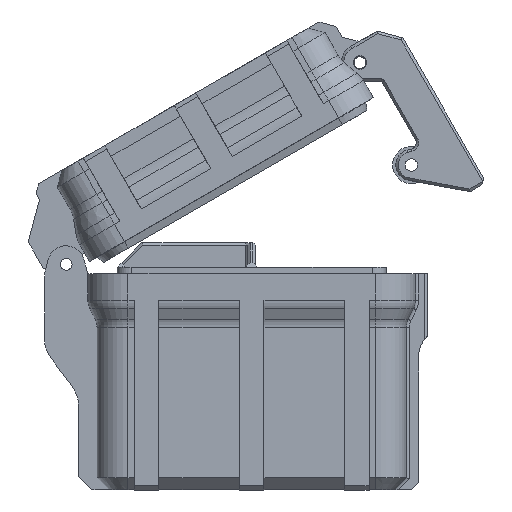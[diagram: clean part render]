
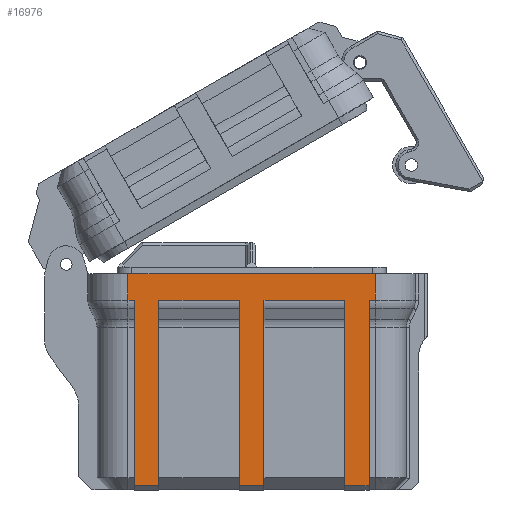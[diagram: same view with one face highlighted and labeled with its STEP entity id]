
A CAD part, left-side view. The second image highlights one B-rep face of the part: STEP entity #16976.
In plain terms, the highlighted planar face has unit normal (-1, 0, 0).
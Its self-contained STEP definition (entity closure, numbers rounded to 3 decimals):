
#2050=FACE_OUTER_BOUND('',#3038,.T.);
#3038=EDGE_LOOP('',(#15054,#15055,#15056,#15057,#15058,#15059,#15060,#15061,
#15062,#15063,#15064,#15065,#15066,#15067,#15068,#15069));
#4217=LINE('',#28101,#5960);
#4335=LINE('',#28431,#6078);
#4340=LINE('',#28441,#6083);
#4346=LINE('',#28455,#6089);
#4349=LINE('',#28464,#6092);
#4390=LINE('',#28571,#6133);
#4395=LINE('',#28581,#6138);
#4401=LINE('',#28595,#6144);
#4404=LINE('',#28604,#6147);
#4421=LINE('',#28645,#6164);
#4426=LINE('',#28655,#6169);
#4430=LINE('',#28661,#6173);
#4444=LINE('',#28690,#6187);
#4445=LINE('',#28693,#6188);
#4675=LINE('',#29380,#6418);
#4679=LINE('',#29390,#6422);
#5960=VECTOR('',#21049,10.);
#6078=VECTOR('',#21373,10.);
#6083=VECTOR('',#21380,10.);
#6089=VECTOR('',#21390,10.);
#6092=VECTOR('',#21399,10.);
#6133=VECTOR('',#21498,10.);
#6138=VECTOR('',#21505,10.);
#6144=VECTOR('',#21515,10.);
#6147=VECTOR('',#21524,10.);
#6164=VECTOR('',#21563,10.);
#6169=VECTOR('',#21570,10.);
#6173=VECTOR('',#21576,10.);
#6187=VECTOR('',#21610,10.);
#6188=VECTOR('',#21613,10.);
#6418=VECTOR('',#22343,10.);
#6422=VECTOR('',#22355,10.);
#7655=VERTEX_POINT('',#28098);
#7656=VERTEX_POINT('',#28100);
#7764=VERTEX_POINT('',#28428);
#7765=VERTEX_POINT('',#28430);
#7769=VERTEX_POINT('',#28440);
#7775=VERTEX_POINT('',#28454);
#7778=VERTEX_POINT('',#28462);
#7814=VERTEX_POINT('',#28568);
#7815=VERTEX_POINT('',#28570);
#7819=VERTEX_POINT('',#28580);
#7825=VERTEX_POINT('',#28594);
#7828=VERTEX_POINT('',#28602);
#7840=VERTEX_POINT('',#28642);
#7841=VERTEX_POINT('',#28644);
#7845=VERTEX_POINT('',#28654);
#7852=VERTEX_POINT('',#28692);
#9778=EDGE_CURVE('',#7656,#7655,#4217,.T.);
#9942=EDGE_CURVE('',#7764,#7765,#4335,.T.);
#9947=EDGE_CURVE('',#7765,#7769,#4340,.T.);
#9954=EDGE_CURVE('',#7769,#7775,#4346,.T.);
#9959=EDGE_CURVE('',#7778,#7764,#4349,.T.);
#10011=EDGE_CURVE('',#7814,#7815,#4390,.T.);
#10016=EDGE_CURVE('',#7815,#7819,#4395,.T.);
#10023=EDGE_CURVE('',#7819,#7825,#4401,.T.);
#10028=EDGE_CURVE('',#7828,#7814,#4404,.T.);
#10048=EDGE_CURVE('',#7840,#7841,#4421,.T.);
#10053=EDGE_CURVE('',#7841,#7845,#4426,.T.);
#10057=EDGE_CURVE('',#7845,#7778,#4430,.T.);
#10072=EDGE_CURVE('',#7825,#7840,#4444,.T.);
#10073=EDGE_CURVE('',#7775,#7852,#4445,.T.);
#10420=EDGE_CURVE('',#7852,#7655,#4675,.T.);
#10425=EDGE_CURVE('',#7828,#7656,#4679,.T.);
#15054=ORIENTED_EDGE('',*,*,#10028,.F.);
#15055=ORIENTED_EDGE('',*,*,#10425,.T.);
#15056=ORIENTED_EDGE('',*,*,#9778,.T.);
#15057=ORIENTED_EDGE('',*,*,#10420,.F.);
#15058=ORIENTED_EDGE('',*,*,#10073,.F.);
#15059=ORIENTED_EDGE('',*,*,#9954,.F.);
#15060=ORIENTED_EDGE('',*,*,#9947,.F.);
#15061=ORIENTED_EDGE('',*,*,#9942,.F.);
#15062=ORIENTED_EDGE('',*,*,#9959,.F.);
#15063=ORIENTED_EDGE('',*,*,#10057,.F.);
#15064=ORIENTED_EDGE('',*,*,#10053,.F.);
#15065=ORIENTED_EDGE('',*,*,#10048,.F.);
#15066=ORIENTED_EDGE('',*,*,#10072,.F.);
#15067=ORIENTED_EDGE('',*,*,#10023,.F.);
#15068=ORIENTED_EDGE('',*,*,#10016,.F.);
#15069=ORIENTED_EDGE('',*,*,#10011,.F.);
#16044=PLANE('',#18388);
#16976=ADVANCED_FACE('',(#2050),#16044,.T.);
#18388=AXIS2_PLACEMENT_3D('',#29389,#22353,#22354);
#21049=DIRECTION('',(0.,1.,0.));
#21373=DIRECTION('',(0.,0.,-1.));
#21380=DIRECTION('',(0.,1.,0.));
#21390=DIRECTION('',(0.,0.,1.));
#21399=DIRECTION('',(0.,1.,0.));
#21498=DIRECTION('',(0.,0.,-1.));
#21505=DIRECTION('',(0.,1.,0.));
#21515=DIRECTION('',(0.,0.,1.));
#21524=DIRECTION('',(0.,1.,0.));
#21563=DIRECTION('',(0.,0.,-1.));
#21570=DIRECTION('',(0.,1.,0.));
#21576=DIRECTION('',(0.,0.,1.));
#21610=DIRECTION('',(0.,1.,0.));
#21613=DIRECTION('',(0.,1.,0.));
#22343=DIRECTION('',(0.,0.,1.));
#22353=DIRECTION('center_axis',(-1.,0.,0.));
#22354=DIRECTION('ref_axis',(0.,0.,1.));
#22355=DIRECTION('',(0.,0.,1.));
#28098=CARTESIAN_POINT('',(-41.,20.,35.));
#28100=CARTESIAN_POINT('',(-41.,-20.,35.));
#28101=CARTESIAN_POINT('',(-41.,-20.,35.));
#28428=CARTESIAN_POINT('',(-41.,15.,30.708));
#28430=CARTESIAN_POINT('',(-41.,15.,0.672));
#28431=CARTESIAN_POINT('',(-41.,15.,30.708));
#28440=CARTESIAN_POINT('',(-41.,19.,0.672));
#28441=CARTESIAN_POINT('',(-41.,17.,0.672));
#28454=CARTESIAN_POINT('',(-41.,19.,30.708));
#28455=CARTESIAN_POINT('',(-41.,19.,30.708));
#28462=CARTESIAN_POINT('',(-41.,2.,30.708));
#28464=CARTESIAN_POINT('',(-41.,-20.,30.708));
#28568=CARTESIAN_POINT('',(-41.,-19.,30.708));
#28570=CARTESIAN_POINT('',(-41.,-19.,0.672));
#28571=CARTESIAN_POINT('',(-41.,-19.,30.708));
#28580=CARTESIAN_POINT('',(-41.,-15.,0.672));
#28581=CARTESIAN_POINT('',(-41.,-17.,0.672));
#28594=CARTESIAN_POINT('',(-41.,-15.,30.708));
#28595=CARTESIAN_POINT('',(-41.,-15.,30.708));
#28602=CARTESIAN_POINT('',(-41.,-20.,30.708));
#28604=CARTESIAN_POINT('',(-41.,-20.,30.708));
#28642=CARTESIAN_POINT('',(-41.,-2.,30.708));
#28644=CARTESIAN_POINT('',(-41.,-2.,0.672));
#28645=CARTESIAN_POINT('',(-41.,-2.,30.708));
#28654=CARTESIAN_POINT('',(-41.,2.,0.672));
#28655=CARTESIAN_POINT('',(-41.,0.,0.672));
#28661=CARTESIAN_POINT('',(-41.,2.,30.708));
#28690=CARTESIAN_POINT('',(-41.,-20.,30.708));
#28692=CARTESIAN_POINT('',(-41.,20.,30.708));
#28693=CARTESIAN_POINT('',(-41.,-20.,30.708));
#29380=CARTESIAN_POINT('',(-41.,20.,30.));
#29389=CARTESIAN_POINT('Origin',(-41.,-20.,30.));
#29390=CARTESIAN_POINT('',(-41.,-20.,30.));
